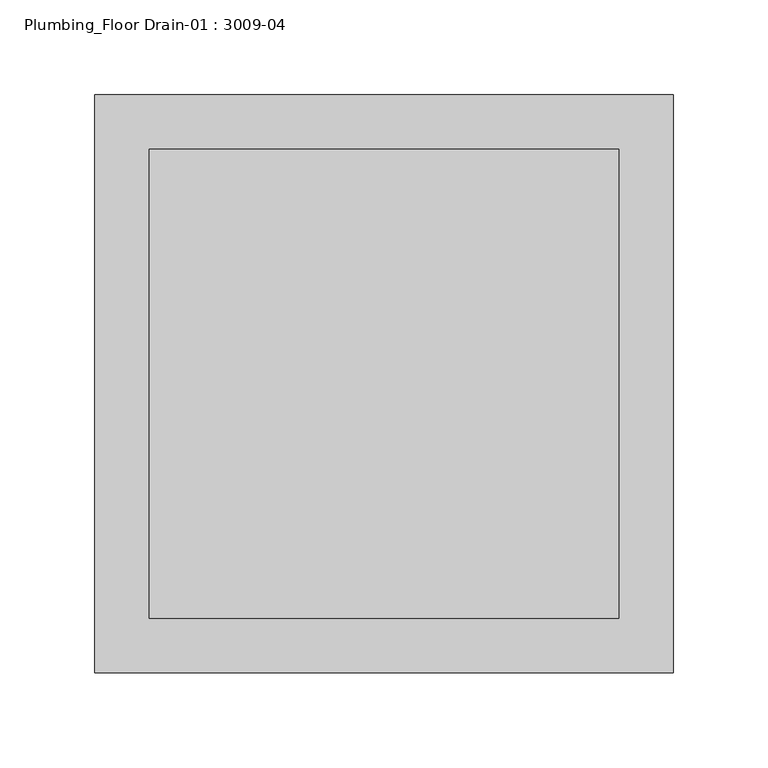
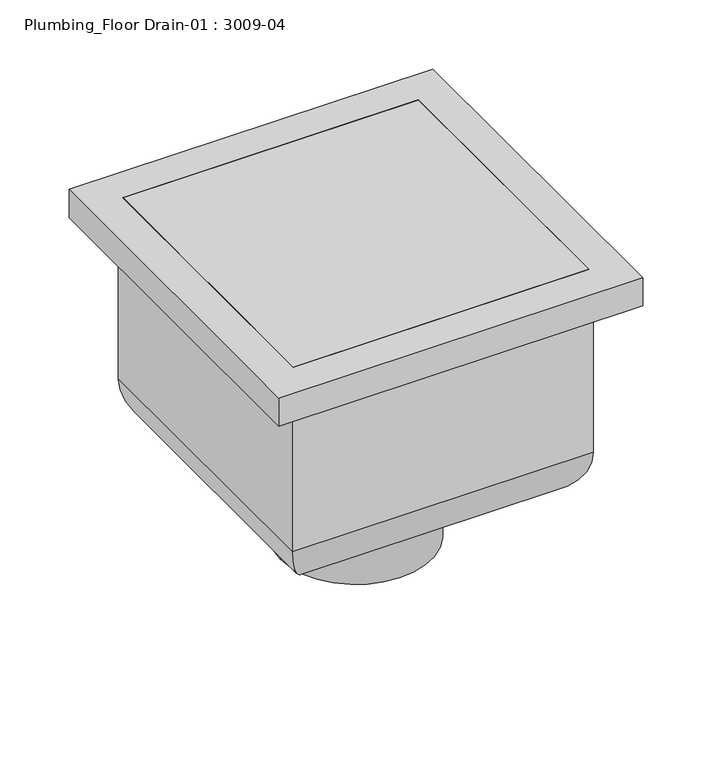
"""IFC4 building model written with IfcOpenShell, lengths in millimetres: flow terminal geometry, Plumbing_Floor Drain-01 : 3009-04."""

from ifc_helpers import new_model, si_unit, frame, origin, place, context, project, spatial, polyline, circle_curve, ellipse_curve, faceted_brep, source, transform, mapped, element, save
from ifc_brep_helpers import plane_surface, cylinder_surface, revolved_surface, advanced_brep


def plumbing_floor_drain_01_3009_04_59585885(model_context):
    return source(origin(), model_context, "Body", "SolidModel", [
        faceted_brep([(64.5463243, -78.4739913, -171.1356181), (89.9929876, -103.9206547, -26.9379626), (-117.8220025, -103.9206547, -26.9379626), (-92.3753391, -78.4739913, -171.1356181), (62.3327076, -76.2603746, -125.6403313), (54.3041459, -68.2318129, -171.1356181), (-82.1331607, -68.2318129, -171.1356181), (-90.1617224, -76.2603746, -125.6403313), (-7.3825628, -6.5451042, -115.4912508), (-7.3825628, -6.5451042, -125.6403313), (-20.4464521, -6.5451042, -125.6403313), (-20.4464521, -6.5451042, -115.4912508), (79.7507479, -93.6784149, -26.9379626), (64.1237951, -78.0514621, -115.4912508), (-91.9528099, -78.0514621, -115.4912508), (-107.5797627, -93.6784149, -26.9379626), (-117.8220025, 103.776285, -26.9379626), (-92.3753391, 78.3296217, -171.1356181), (-82.1331607, 68.0874433, -171.1356181), (-90.1617224, 76.116005, -125.6403313), (-20.4464521, 6.4007346, -125.6403313), (-20.4464521, 6.4007346, -115.4912508), (-91.9528099, 77.9070925, -115.4912508), (-107.5797627, 93.5340453, -26.9379626), (89.9929876, 103.776285, -26.9379626), (64.5463243, 78.3296217, -171.1356181), (54.3041459, 68.0874433, -171.1356181), (62.3327076, 76.116005, -125.6403313), (-7.3825628, 6.4007346, -125.6403313), (-7.3825628, 6.4007346, -115.4912508), (64.1237951, 77.9070925, -115.4912508), (79.7507479, 93.5340453, -26.9379626)], [[[0, 1, 2, 3]], [[4, 5, 6, 7]], [[8, 9, 10, 11]], [[12, 13, 14, 15]], [[3, 2, 16, 17]], [[7, 6, 18, 19]], [[11, 10, 20, 21]], [[15, 14, 22, 23]], [[17, 16, 24, 25]], [[19, 18, 26, 27]], [[21, 20, 28, 29]], [[23, 22, 30, 31]], [[25, 24, 1, 0]], [[3, 17, 25, 0], [5, 26, 18, 6]], [[27, 26, 5, 4]], [[7, 19, 27, 4], [9, 28, 20, 10]], [[29, 28, 9, 8]], [[13, 30, 22, 14], [11, 21, 29, 8]], [[31, 30, 13, 12]], [[1, 24, 16, 2], [15, 23, 31, 12]]]),
        faceted_brep([(101.0620851, -114.9765918, 13.2826074), (109.5401043, -123.454611, 25.6101328), (-137.3402248, -123.454611, 25.6101328), (-128.8622056, -114.9765918, 13.2826074), (101.0620851, -114.9765918, -19.1426269), (-128.8622056, -114.9765918, -19.1426269), (89.1027146, -103.0172213, 10.5338959), (89.1027146, -103.0172213, -19.1426269), (-116.9028351, -103.0172213, -19.1426269), (-116.9028351, -103.0172213, 10.5338959), (-137.3402248, 123.3102414, 25.6101328), (-128.8622056, 114.8322222, 13.2826074), (-128.8622056, 114.8322222, -19.1426269), (-116.9028351, 102.8728517, -19.1426269), (-116.9028351, 102.8728517, 10.5338959), (109.5401043, 123.3102414, 25.6101328), (101.0620851, 114.8322222, 13.2826074), (101.0620851, 114.8322222, -19.1426269), (89.1027146, 102.8728517, -19.1426269), (89.1027146, 102.8728517, 10.5338959)], [[[0, 1, 2, 3]], [[4, 0, 3, 5]], [[6, 7, 8, 9]], [[3, 2, 10, 11]], [[5, 3, 11, 12]], [[9, 8, 13, 14]], [[11, 10, 15, 16]], [[12, 11, 16, 17]], [[14, 13, 18, 19]], [[9, 14, 19, 6]], [[1, 15, 10, 2]], [[16, 15, 1, 0]], [[17, 16, 0, 4]], [[5, 12, 17, 4], [7, 18, 13, 8]], [[19, 18, 7, 6]]]),
        advanced_brep(
        [(66.1727644, 79.9429015, -171.9861584), (101.0620851, 114.8322222, -137.0968378), (-128.8622056, 114.8322222, -137.0968378), (-93.9728849, 79.9429015, -171.9861584), (112.0326921, 125.8028293, -135.2695389), (64.5008937, 78.2710308, -182.8013374), (-92.3010142, 78.2710308, -182.8013374), (-139.8328127, 125.8028293, -135.2695389), (-139.8328127, 125.8028293, 17.940677), (112.0326921, 125.8028293, 17.940677), (101.0620851, 114.8322222, 13.2826074), (104.2655831, 118.0357202, 17.940677), (-132.0657037, 118.0357202, 17.940677), (-128.8622056, 114.8322222, 13.2826074), (-128.8622056, -114.9765918, -137.0968378), (-93.9728849, -80.0872711, -171.9861584), (-92.3010142, -78.4154004, -182.8013374), (-139.8328127, -125.9471989, -135.2695389), (-139.8328127, -125.9471989, 17.940677), (-132.0657037, -118.1800898, 17.940677), (-128.8622056, -114.9765918, 13.2826074), (101.0620851, -114.9765918, -137.0968378), (66.1727644, -80.0872711, -171.9861584), (64.5008937, -78.4154004, -182.8013374), (112.0326921, -125.9471989, -135.2695389), (112.0326921, -125.9471989, 17.940677), (104.2655831, -118.1800898, 17.940677), (101.0620851, -114.9765918, 13.2826074), (101.0620851, 0.0, -137.0968378), (66.1727644, 0.0, -171.9861584), (64.5008937, 0.0, -182.8013374), (112.0326921, 0.0, -135.2695389), (49.2755663, 0.0, -171.9861584), (-77.1045812, 0.0, -171.9861584), (-77.1045812, 0.0, -182.8013374), (49.2755663, 0.0, -182.8013374)],
        [
            (0, 1, ellipse_curve(frame((66.1727644, 79.9429015, -137.0968378), z_axis=(0.7071067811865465, -0.7071067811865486, 0.0), x_axis=(-0.7071067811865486, -0.7071067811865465, 0.0)), 49.3409505, 34.8893207)),
            (1, 2),
            (2, 3, ellipse_curve(frame((-93.9728849, 79.9429015, -137.0968378), z_axis=(-0.7071067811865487, -0.7071067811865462, 0.0), x_axis=(-0.7071067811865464, 0.7071067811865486, 0.0)), 49.3409505, 34.8893207)),
            (3, 0),
            (4, 5, ellipse_curve(frame((64.5008937, 78.2710308, -135.2695389), z_axis=(-0.7071067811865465, 0.7071067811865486, 0.0), x_axis=(0.7071067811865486, 0.7071067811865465, 0.0)), 67.220114, 47.5317985)),
            (5, 6),
            (6, 7, ellipse_curve(frame((-92.3010142, 78.2710308, -135.2695389), z_axis=(0.7071067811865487, 0.7071067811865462, 0.0), x_axis=(0.7071067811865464, -0.7071067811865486, 0.0)), 67.220114, 47.5317985)),
            (7, 4),
            (7, 8),
            (8, 9),
            (9, 4),
            (10, 11),
            (11, 12),
            (12, 13),
            (13, 10),
            (1, 10),
            (13, 2),
            (2, 14),
            (14, 15, ellipse_curve(frame((-93.9728849, -80.0872711, -137.0968378), z_axis=(0.7071067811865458, -0.7071067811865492, 0.0), x_axis=(-0.7071067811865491, -0.7071067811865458, 0.0)), 49.3409505, 34.8893207)),
            (15, 3),
            (6, 16),
            (16, 17, ellipse_curve(frame((-92.3010142, -78.4154004, -135.2695389), z_axis=(-0.7071067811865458, 0.7071067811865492, 0.0), x_axis=(0.7071067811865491, 0.7071067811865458, 0.0)), 67.220114, 47.5317985)),
            (17, 7),
            (17, 18),
            (18, 8),
            (12, 19),
            (19, 20),
            (20, 13),
            (20, 14),
            (14, 21),
            (21, 22, ellipse_curve(frame((66.1727644, -80.0872711, -137.0968378), z_axis=(0.707106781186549, 0.7071067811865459, 0.0), x_axis=(0.7071067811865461, -0.7071067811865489, 0.0)), 49.3409505, 34.8893207)),
            (22, 15),
            (16, 23),
            (23, 24, ellipse_curve(frame((64.5008937, -78.4154004, -135.2695389), z_axis=(-0.707106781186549, -0.7071067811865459, 0.0), x_axis=(-0.7071067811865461, 0.7071067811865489, 0.0)), 67.220114, 47.5317985)),
            (24, 17),
            (24, 25),
            (25, 18),
            (19, 26),
            (26, 27),
            (27, 20),
            (27, 21),
            (21, 28),
            (28, 29, circle_curve(frame((66.1727644, 0.0, -137.0968378), z_axis=(0.0, 1.0, 0.0), x_axis=(-1.0, 0.0, 0.0)), 34.8893207)),
            (29, 22),
            (23, 30),
            (30, 31, circle_curve(frame((64.5008937, 0.0, -135.2695389), z_axis=(0.0, -1.0, 0.0), x_axis=(-1.0, 0.0, 0.0)), 47.5317985)),
            (31, 24),
            (9, 25),
            (31, 4),
            (10, 27),
            (26, 11),
            (1, 28),
            (0, 29),
            (32, 33, circle_curve(frame((-13.9145074, 0.0, -171.9861584), z_axis=(0.0, 0.0, -1.0), x_axis=(-1.0, 0.0, 0.0)), 63.1900737)),
            (33, 32, circle_curve(frame((-13.9145074, 0.0, -171.9861584), z_axis=(0.0, 0.0, -1.0), x_axis=(-1.0, 0.0, 0.0)), 63.1900737)),
            (5, 30),
            (34, 35, circle_curve(frame((-13.9145074, 0.0, -182.8013374), z_axis=(0.0, 0.0, 1.0), x_axis=(-1.0, 0.0, 0.0)), 63.1900737)),
            (35, 34, circle_curve(frame((-13.9145074, 0.0, -182.8013374), z_axis=(0.0, 0.0, 1.0), x_axis=(-1.0, 0.0, 0.0)), 63.1900737)),
            (34, 33),
            (32, 35),
        ],
        [
            revolved_surface(polyline([(-128.8622056, 45.053580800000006, -137.0968378), (101.0620851, 45.053580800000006, -137.0968378)]), (138.2095178, 79.9429015, -137.0968378), (-1.0, 0.0, 0.0)),
            cylinder_surface(frame((138.2095178, 78.2710308, -135.2695389), z_axis=(1.0, 0.0, 0.0), x_axis=(0.0, -1.0, 0.0)), 47.5317985),
            plane_surface(frame((112.0326921, 125.8028293, -135.2695389), z_axis=(0.0, 1.0, 0.0), x_axis=(-1.0, 0.0, 0.0))),
            plane_surface(frame((104.2655831, 118.0357202, 17.940677), z_axis=(0.0, -0.8239531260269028, 0.5666579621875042), x_axis=(-1.0, 0.0, 0.0))),
            plane_surface(frame((101.0620851, 114.8322222, 13.2826074), z_axis=(0.0, -1.0, 0.0), x_axis=(-1.0, 0.0, 0.0))),
            revolved_surface(polyline([(-59.0835642, -114.9765918, -137.0968378), (-59.0835642, 114.8322222, -137.0968378)]), (-93.9728849, 151.9796549, -137.0968378), (0.0, -1.0, 0.0)),
            cylinder_surface(frame((-92.3010142, 151.9796549, -135.2695389), z_axis=(0.0, 1.0, 0.0), x_axis=(1.0, 0.0, 0.0)), 47.5317985),
            plane_surface(frame((-139.8328127, 125.8028293, -135.2695389), z_axis=(-1.0, 0.0, 0.0), x_axis=(0.0, -1.0, 0.0))),
            plane_surface(frame((-132.0657037, 118.0357202, 17.940677), z_axis=(0.8239531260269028, 0.0, 0.5666579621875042), x_axis=(0.0, -1.0, 0.0))),
            plane_surface(frame((-128.8622056, 114.8322222, 13.2826074), z_axis=(1.0, 0.0, 0.0), x_axis=(0.0, -1.0, 0.0))),
            revolved_surface(polyline([(101.06208509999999, -45.197950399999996, -137.0968378), (-128.8622056, -45.197950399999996, -137.0968378)]), (-166.0096383, -80.0872711, -137.0968378), (1.0, 0.0, 0.0)),
            cylinder_surface(frame((-166.0096383, -78.4154004, -135.2695389), z_axis=(-1.0, 0.0, 0.0), x_axis=(0.0, 1.0, 0.0)), 47.5317985),
            plane_surface(frame((-139.8328127, -125.9471989, -135.2695389), z_axis=(0.0, -1.0, 0.0), x_axis=(1.0, 0.0, 0.0))),
            plane_surface(frame((-132.0657037, -118.1800898, 17.940677), z_axis=(0.0, 0.8239531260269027, 0.5666579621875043), x_axis=(1.0, 0.0, 0.0))),
            plane_surface(frame((-128.8622056, -114.9765918, 13.2826074), z_axis=(0.0, 1.0, 0.0), x_axis=(1.0, 0.0, 0.0))),
            revolved_surface(polyline([(31.283443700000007, 0.0, -137.0968378), (31.283443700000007, -114.9765918, -137.0968378)]), (66.1727644, -152.1240245, -137.0968378), (0.0, 1.0, 0.0)),
            cylinder_surface(frame((64.5008937, -152.1240245, -135.2695389), z_axis=(0.0, -1.0, 0.0), x_axis=(-1.0, 0.0, 0.0)), 47.5317985),
            plane_surface(frame((112.0326921, -125.9471989, -135.2695389), z_axis=(1.0, 0.0, 0.0), x_axis=(0.0, 1.0, 0.0))),
            plane_surface(frame((104.2655831, -118.1800898, 17.940677), z_axis=(-0.8239531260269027, 0.0, 0.5666579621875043), x_axis=(0.0, 1.0, 0.0))),
            plane_surface(frame((101.0620851, -114.9765918, 13.2826074), z_axis=(-1.0, 0.0, 0.0), x_axis=(0.0, 1.0, 0.0))),
            revolved_surface(polyline([(31.283443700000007, 114.8322222, -137.0968378), (31.283443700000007, 0.0, -137.0968378)]), (66.1727644, 0.0, -137.0968378), (0.0, 1.0, 0.0)),
            plane_surface(frame((66.1727644, 0.0, -171.9861584), z_axis=(0.0, 0.0, 1.0), x_axis=(0.0, 1.0, 0.0))),
            plane_surface(frame((8.3104926, 0.0, -182.8013374), z_axis=(0.0, 0.0, -1.0), x_axis=(0.0, 1.0, 0.0))),
            cylinder_surface(frame((64.5008937, 0.0, -135.2695389), z_axis=(0.0, -1.0, 0.0), x_axis=(-1.0, 0.0, 0.0)), 47.5317985),
            plane_surface(frame((112.0326921, 0.0, 17.940677), z_axis=(0.0, 0.0, 1.0), x_axis=(0.0, 1.0, 0.0))),
            revolved_surface(polyline([(-77.1045811, 0.0, -171.9861584), (-77.1045811, 0.0, -182.8013374)]), (-13.9145074, 0.0, -274.4888576), (0.0, 0.0, 1.0)),
        ],
        [
            (0, [[1, 2, 3, 4]]),
            (1, [[5, 6, 7, 8]]),
            (2, [[-8, 9, 10, 11]]),
            (3, [[12, 13, 14, 15]]),
            (4, [[-2, 16, -15, 17]]),
            (5, [[-3, 18, 19, 20]]),
            (6, [[-7, 21, 22, 23]]),
            (7, [[-9, -23, 24, 25]]),
            (8, [[-14, 26, 27, 28]]),
            (9, [[-17, -28, 29, -18]]),
            (10, [[-19, 30, 31, 32]]),
            (11, [[-22, 33, 34, 35]]),
            (12, [[-24, -35, 36, 37]]),
            (13, [[-27, 38, 39, 40]]),
            (14, [[-29, -40, 41, -30]]),
            (15, [[-31, 42, 43, 44]]),
            (16, [[-34, 45, 46, 47]]),
            (17, [[-11, 48, -36, -47, 49]]),
            (18, [[-12, 50, -39, 51]]),
            (19, [[-16, 52, -42, -41, -50]]),
            (20, [[-1, 53, -43, -52]]),
            (21, [[-4, -20, -32, -44, -53], [54, 55]]),
            (22, [[-6, 56, -45, -33, -21], [57, 58]]),
            (23, [[-5, -49, -46, -56]]),
            (24, [[-10, -25, -37, -48], [-13, -51, -38, -26]]),
            (25, [[59, -54, 60, -57]]),
            (25, [[-59, -58, -60, -55]]),
        ],
    ),
        advanced_brep(
        [(-77.1045812, 0.0, -182.8013374), (49.2755663, 0.0, -182.8013374), (49.2755663, 0.0, -240.3123343), (-77.1045812, 0.0, -240.3123343), (-64.7145074, 0.0, -182.8013374), (36.8854926, 0.0, -182.8013374), (-64.7145074, 0.0, -240.3123343), (36.8854926, 0.0, -240.3123343)],
        [
            (0, 1, circle_curve(frame((-13.9145074, 0.0, -182.8013374), z_axis=(0.0, 0.0, -1.0), x_axis=(1.0, 0.0, 0.0)), 63.1900737)),
            (1, 2),
            (2, 3, circle_curve(frame((-13.9145074, 0.0, -240.3123343), z_axis=(0.0, 0.0, 1.0), x_axis=(1.0, 0.0, 0.0)), 63.1900737)),
            (3, 0),
            (1, 0, circle_curve(frame((-13.9145074, 0.0, -182.8013374), z_axis=(0.0, 0.0, -1.0), x_axis=(1.0, 0.0, 0.0)), 63.1900737)),
            (3, 2, circle_curve(frame((-13.9145074, 0.0, -240.3123343), z_axis=(0.0, 0.0, 1.0), x_axis=(1.0, 0.0, 0.0)), 63.1900737)),
            (4, 5, circle_curve(frame((-13.9145074, 0.0, -182.8013374), z_axis=(0.0, 0.0, -1.0), x_axis=(1.0, 0.0, 0.0)), 50.8)),
            (5, 1),
            (0, 4),
            (5, 4, circle_curve(frame((-13.9145074, 0.0, -182.8013374), z_axis=(0.0, 0.0, -1.0), x_axis=(1.0, 0.0, 0.0)), 50.8)),
            (6, 7, circle_curve(frame((-13.9145074, 0.0, -240.3123343), z_axis=(0.0, 0.0, -1.0), x_axis=(1.0, 0.0, 0.0)), 50.8)),
            (7, 5),
            (4, 6),
            (7, 6, circle_curve(frame((-13.9145074, 0.0, -240.3123343), z_axis=(0.0, 0.0, -1.0), x_axis=(1.0, 0.0, 0.0)), 50.8)),
            (2, 7),
            (6, 3),
        ],
        [
            cylinder_surface(frame((-13.9145074, 0.0, -264.190263), z_axis=(0.0, 0.0, 1.0), x_axis=(1.0, 0.0, 0.0)), 63.1900737),
            plane_surface(frame((-13.9145074, 0.0, -182.8013374), z_axis=(0.0, 0.0, 1.0), x_axis=(1.0, 0.0, 0.0))),
            revolved_surface(polyline([(36.8854926, 0.0, -182.8013374), (36.8854926, 0.0, -240.3123343)]), (-13.9145074, 0.0, -264.190263), (0.0, 0.0, 1.0)),
            plane_surface(frame((-13.9145074, 0.0, -240.3123343), z_axis=(0.0, 0.0, -1.0), x_axis=(1.0, 0.0, 0.0))),
        ],
        [
            (0, [[1, 2, 3, 4]]),
            (0, [[5, -4, 6, -2]]),
            (1, [[7, 8, -1, 9]]),
            (1, [[10, -9, -5, -8]]),
            (2, [[11, 12, -7, 13]]),
            (2, [[14, -13, -10, -12]]),
            (3, [[-3, 15, -11, 16]]),
            (3, [[-6, -16, -14, -15]]),
        ],
    ),
        faceted_brep([(104.850526, 118.6206631, 18.7912174), (109.6331765, 123.4033136, 25.7454651), (-137.433297, 123.4033136, 25.7454651), (-132.6506465, 118.6206631, 18.7912174), (131.2095019, 144.979639, 0.7818021), (131.2095019, 144.979639, 18.7912174), (-159.0096224, 144.979639, 18.7912174), (-159.0096224, 144.979639, 0.7818021), (138.2095178, 151.9796549, 25.7477279), (138.2095178, 151.9796549, 0.7818021), (-166.0096383, 151.9796549, 0.7818021), (-166.0096383, 151.9796549, 25.7477279), (-137.433297, -123.5476832, 25.7454651), (-132.6506465, -118.7650327, 18.7912174), (-159.0096224, -145.1240086, 18.7912174), (-159.0096224, -145.1240086, 0.7818021), (-166.0096383, -152.1240245, 0.7818021), (-166.0096383, -152.1240245, 25.7477279), (109.6331765, -123.5476832, 25.7454651), (104.850526, -118.7650327, 18.7912174), (131.2095019, -145.1240086, 18.7912174), (131.2095019, -145.1240086, 0.7818021), (138.2095178, -152.1240245, 0.7818021), (138.2095178, -152.1240245, 25.7477279)], [[[0, 1, 2, 3]], [[4, 5, 6, 7]], [[8, 9, 10, 11]], [[3, 2, 12, 13]], [[7, 6, 14, 15]], [[11, 10, 16, 17]], [[13, 12, 18, 19]], [[15, 14, 20, 21]], [[17, 16, 22, 23]], [[19, 18, 1, 0]], [[5, 20, 14, 6], [3, 13, 19, 0]], [[21, 20, 5, 4]], [[9, 22, 16, 10], [7, 15, 21, 4]], [[23, 22, 9, 8]], [[11, 17, 23, 8], [1, 18, 12, 2]]]),
    ])


if __name__ == "__main__":
    model = new_model("IFC4")
    model_context = context("Model", 3, world=origin())
    ifc_project = project(units=[si_unit("LENGTHUNIT", "METRE", prefix="MILLI")], contexts=[model_context])
    site = spatial("IfcSite", under=ifc_project)
    building = spatial("IfcBuilding", under=site)
    placement = place(None, origin())
    plumbing_floor_drain_01_3009_04_shape = plumbing_floor_drain_01_3009_04_59585885(model_context)
    element("IfcFlowTerminal", 1, ObjectType="Plumbing_Floor Drain-01 : 3009-04", at=placement, inside=building, context=model_context, shape_type="MappedRepresentation", body=[
        mapped(plumbing_floor_drain_01_3009_04_shape, transform((0.0, 0.0, 0.0), x_axis=(1.0, 0.0, 0.0), y_axis=(0.0, 1.0, 0.0), z_axis=(0.0, 0.0, 1.0))),
    ])
    save(model, "model.ifc")
